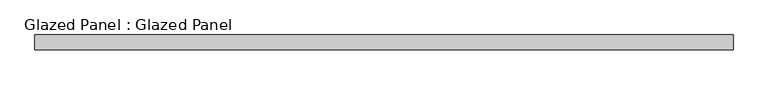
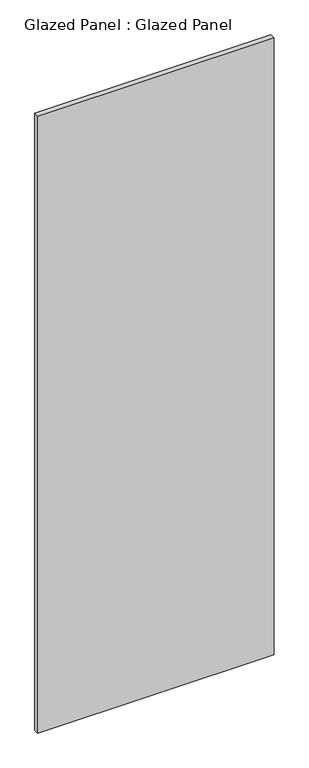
"""IFC4 building model written with IfcOpenShell, lengths in millimetres: plate geometry, Glazed Panel : Glazed Panel."""

from ifc_helpers import new_model, si_unit, origin, origin_with_axes, place, context, project, spatial, polyline, outline, extrude, source, transform, mapped, element, save


def glazed_panel_glazed_panel_1afe2f89(model_context):
    return source(origin(), model_context, "Body", "SweptSolid", [
        extrude(outline(polyline([(600.3827129, 38.1), (-600.3827129, 38.1), (-600.3827129, 63.5), (600.3827129, 63.5), (600.3827129, 38.1)])), origin_with_axes(), (0.0, 0.0, 1.0), 3314.5743765),
    ])


if __name__ == "__main__":
    model = new_model("IFC4")
    model_context = context("Model", 3, world=origin())
    ifc_project = project(units=[si_unit("LENGTHUNIT", "METRE", prefix="MILLI")], contexts=[model_context])
    site = spatial("IfcSite", under=ifc_project)
    building = spatial("IfcBuilding", under=site)
    placement = place(None, origin())
    glazed_panel_glazed_panel_shape = glazed_panel_glazed_panel_1afe2f89(model_context)
    element("IfcPlate", 1, ObjectType="Glazed Panel : Glazed Panel", at=placement, inside=building, context=model_context, shape_type="MappedRepresentation", body=[
        mapped(glazed_panel_glazed_panel_shape, transform((0.0, 0.0, 0.0), x_axis=(1.0, 0.0, 0.0), y_axis=(0.0, 1.0, 0.0), z_axis=(0.0, 0.0, 1.0))),
    ])
    save(model, "model.ifc")
